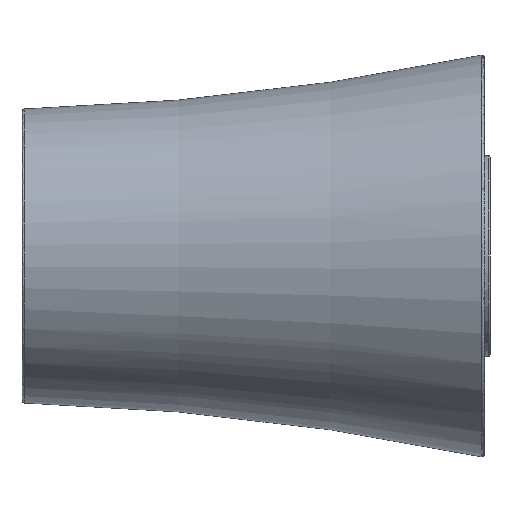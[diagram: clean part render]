
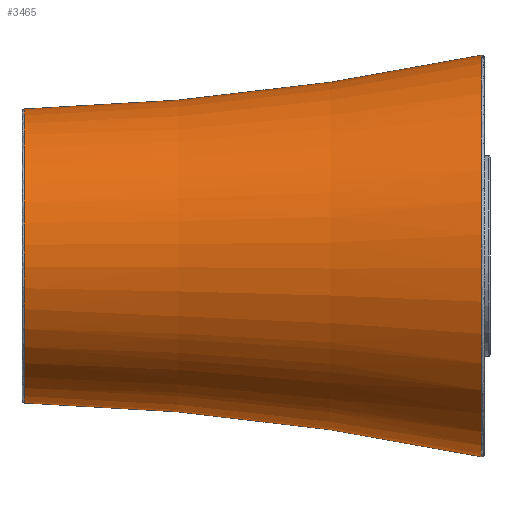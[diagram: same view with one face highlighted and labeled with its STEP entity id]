
A CAD part, left-side view. The second image highlights one B-rep face of the part: STEP entity #3465.
In plain terms, the highlighted toroidal (fillet/blend) face has major radius 1690.73 mm and minor radius 1600 mm.
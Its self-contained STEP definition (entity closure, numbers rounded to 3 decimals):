
#1 = CARTESIAN_POINT ( 'NONE',  ( -136.219, 302.323, -40.358 ) ) ;
#30 = CARTESIAN_POINT ( 'NONE',  ( -181.784, 302.323, 44.889 ) ) ;
#53 = CARTESIAN_POINT ( 'NONE',  ( -102.4, 302.323, 129.663 ) ) ;
#78 = CIRCLE ( 'NONE', #2293, 1600. ) ;
#266 = CARTESIAN_POINT ( 'NONE',  ( -98.611, 18.288, -85.881 ) ) ;
#289 = CARTESIAN_POINT ( 'NONE',  ( -184.46, 18.288, 121.376 ) ) ;
#316 = CARTESIAN_POINT ( 'NONE',  ( -145.745, 18.288, -73.256 ) ) ;
#348 = CARTESIAN_POINT ( 'NONE',  ( -198.742, 18.288, -23.629 ) ) ;
#399 = CARTESIAN_POINT ( 'NONE',  ( -136.219, 302.323, 118.179 ) ) ;
#433 = DIRECTION ( 'NONE',  ( -1., 0., 0. ) ) ;
#515 = CARTESIAN_POINT ( 'NONE',  ( -114.127, 302.323, -49.509 ) ) ;
#575 = EDGE_CURVE ( 'NONE', #1121, #4614, #2673, .T. ) ;
#583 = EDGE_CURVE ( 'NONE', #1121, #2074, #4719, .T. ) ;
#601 = CARTESIAN_POINT ( 'NONE',  ( -90.443, 346.695, -1651.815 ) ) ;
#607 = ORIENTED_EDGE ( 'NONE', *, *, #583, .T. ) ;
#705 = B_SPLINE_CURVE_WITH_KNOTS ( 'NONE', 3,
 ( #1552, #266, #5253, #2305, #2683, #316, #4017, #756, #2387, #3181, #2351, #348, #5148, #1901, #3155, #1498, #3127, #3585, #3929, #4778, #1980, #1112, #3983, #3611, #289, #3507, #1925, #3553, #4310, #5227, #2279, #5197, #1526, #4806 ),
 .UNSPECIFIED., .F., .F.,
 ( 4, 2, 2, 2, 2, 2, 2, 2, 2, 2, 2, 2, 2, 2, 2, 2, 4 ),
 ( 0., 0.031, 0.063, 0.094, 0.125, 0.156, 0.188, 0.219, 0.25, 0.281, 0.313, 0.344, 0.375, 0.406, 0.438, 0.469, 0.5 ),
 .UNSPECIFIED. ) ;
#756 = CARTESIAN_POINT ( 'NONE',  ( -166.565, 18.288, -60.312 ) ) ;
#805 = CARTESIAN_POINT ( 'NONE',  ( -150.804, 302.323, 107.726 ) ) ;
#892 = DIRECTION ( 'NONE',  ( 0., 0., 1. ) ) ;
#916 = CARTESIAN_POINT ( 'NONE',  ( -119.875, 302.323, 125.586 ) ) ;
#1112 = CARTESIAN_POINT ( 'NONE',  ( -202.61, 18.288, 94.212 ) ) ;
#1121 = VERTEX_POINT ( 'NONE', #2341 ) ;
#1152 = ORIENTED_EDGE ( 'NONE', *, *, #4181, .T. ) ;
#1216 = CARTESIAN_POINT ( 'NONE',  ( -159.258, 302.323, 99.271 ) ) ;
#1236 = DIRECTION ( 'NONE',  ( 0., 0., 1. ) ) ;
#1290 = CARTESIAN_POINT ( 'NONE',  ( -146.16, 302.323, -33.715 ) ) ;
#1313 = CARTESIAN_POINT ( 'NONE',  ( -177.119, 302.323, 9.479 ) ) ;
#1475 = AXIS2_PLACEMENT_3D ( 'NONE', #2147, #433, #892 ) ;
#1498 = CARTESIAN_POINT ( 'NONE',  ( -214.431, 18.288, 22.576 ) ) ;
#1526 = CARTESIAN_POINT ( 'NONE',  ( -98.611, 18.288, 163.702 ) ) ;
#1552 = CARTESIAN_POINT ( 'NONE',  ( -90.443, 18.288, -85.881 ) ) ;
#1642 = CARTESIAN_POINT ( 'NONE',  ( -119.875, 302.323, -47.765 ) ) ;
#1668 = CARTESIAN_POINT ( 'NONE',  ( -181.784, 302.323, 32.932 ) ) ;
#1691 = CARTESIAN_POINT ( 'NONE',  ( -172.544, 302.323, -1.567 ) ) ;
#1876 = EDGE_LOOP ( 'NONE', ( #607, #3961, #1152, #4093 ) ) ;
#1901 = CARTESIAN_POINT ( 'NONE',  ( -208.862, 18.288, -1.299 ) ) ;
#1925 = CARTESIAN_POINT ( 'NONE',  ( -166.565, 18.288, 138.133 ) ) ;
#1980 = CARTESIAN_POINT ( 'NONE',  ( -208.862, 18.288, 79.12 ) ) ;
#2066 = CARTESIAN_POINT ( 'NONE',  ( -130.921, 302.323, 121.011 ) ) ;
#2074 = VERTEX_POINT ( 'NONE', #5286 ) ;
#2093 = CARTESIAN_POINT ( 'NONE',  ( -90.443, 302.323, 130.251 ) ) ;
#2111 = CARTESIAN_POINT ( 'NONE',  ( -90.443, 346.695, 38.911 ) ) ;
#2118 = CARTESIAN_POINT ( 'NONE',  ( -96.422, 302.323, -52.43 ) ) ;
#2147 = CARTESIAN_POINT ( 'NONE',  ( -90.443, 346.695, 1729.636 ) ) ;
#2279 = CARTESIAN_POINT ( 'NONE',  ( -122.8, 18.288, 159.711 ) ) ;
#2293 = AXIS2_PLACEMENT_3D ( 'NONE', #601, #5125, #3482 ) ;
#2305 = CARTESIAN_POINT ( 'NONE',  ( -122.8, 18.288, -81.89 ) ) ;
#2341 = CARTESIAN_POINT ( 'NONE',  ( -90.443, 302.323, 130.251 ) ) ;
#2351 = CARTESIAN_POINT ( 'NONE',  ( -189.666, 18.288, -37.211 ) ) ;
#2387 = CARTESIAN_POINT ( 'NONE',  ( -172.909, 18.288, -55.106 ) ) ;
#2426 = FACE_OUTER_BOUND ( 'NONE', #1876, .T. ) ;
#2433 = CARTESIAN_POINT ( 'NONE',  ( -169.712, 302.323, 84.686 ) ) ;
#2513 = CARTESIAN_POINT ( 'NONE',  ( -159.258, 302.323, -21.45 ) ) ;
#2673 = CIRCLE ( 'NONE', #1475, 1600. ) ;
#2683 = CARTESIAN_POINT ( 'NONE',  ( -130.653, 18.288, -79.507 ) ) ;
#2689 = EDGE_CURVE ( 'NONE', #2074, #4563, #78, .T. ) ;
#2846 = CARTESIAN_POINT ( 'NONE',  ( -96.422, 302.323, 130.251 ) ) ;
#2895 = CARTESIAN_POINT ( 'NONE',  ( -114.127, 302.323, 127.33 ) ) ;
#2923 = CARTESIAN_POINT ( 'NONE',  ( -150.804, 302.323, -29.904 ) ) ;
#3127 = CARTESIAN_POINT ( 'NONE',  ( -215.235, 18.288, 30.743 ) ) ;
#3155 = CARTESIAN_POINT ( 'NONE',  ( -211.244, 18.288, 6.554 ) ) ;
#3181 = CARTESIAN_POINT ( 'NONE',  ( -184.46, 18.288, -43.555 ) ) ;
#3289 = CARTESIAN_POINT ( 'NONE',  ( -181.196, 302.323, 26.954 ) ) ;
#3315 = CARTESIAN_POINT ( 'NONE',  ( -172.544, 302.323, 79.388 ) ) ;
#3348 = CARTESIAN_POINT ( 'NONE',  ( -90.443, 18.288, -85.881 ) ) ;
#3465 = ADVANCED_FACE ( 'NONE', ( #2426 ), #3571, .F. ) ;
#3482 = DIRECTION ( 'NONE',  ( 0., 0., -1. ) ) ;
#3507 = CARTESIAN_POINT ( 'NONE',  ( -172.909, 18.288, 132.927 ) ) ;
#3553 = CARTESIAN_POINT ( 'NONE',  ( -152.983, 18.288, 147.209 ) ) ;
#3571 = TOROIDAL_SURFACE ( 'NONE', #4964, 1690.725, 1600. ) ;
#3585 = CARTESIAN_POINT ( 'NONE',  ( -215.235, 18.288, 47.078 ) ) ;
#3611 = CARTESIAN_POINT ( 'NONE',  ( -189.666, 18.288, 115.032 ) ) ;
#3660 = CARTESIAN_POINT ( 'NONE',  ( -163.069, 302.323, 94.628 ) ) ;
#3686 = CARTESIAN_POINT ( 'NONE',  ( -181.196, 302.323, 50.867 ) ) ;
#3709 = CARTESIAN_POINT ( 'NONE',  ( -178.863, 302.323, 62.594 ) ) ;
#3761 = CARTESIAN_POINT ( 'NONE',  ( -169.712, 302.323, -6.865 ) ) ;
#3929 = CARTESIAN_POINT ( 'NONE',  ( -214.431, 18.288, 55.246 ) ) ;
#3961 = ORIENTED_EDGE ( 'NONE', *, *, #2689, .T. ) ;
#3983 = CARTESIAN_POINT ( 'NONE',  ( -198.742, 18.288, 101.45 ) ) ;
#4017 = CARTESIAN_POINT ( 'NONE',  ( -152.983, 18.288, -69.388 ) ) ;
#4060 = CARTESIAN_POINT ( 'NONE',  ( -90.443, 302.323, -52.43 ) ) ;
#4093 = ORIENTED_EDGE ( 'NONE', *, *, #575, .F. ) ;
#4140 = DIRECTION ( 'NONE',  ( 0., 1., 0. ) ) ;
#4147 = CARTESIAN_POINT ( 'NONE',  ( -178.863, 302.323, 15.228 ) ) ;
#4181 = EDGE_CURVE ( 'NONE', #4563, #4614, #705, .T. ) ;
#4310 = CARTESIAN_POINT ( 'NONE',  ( -145.745, 18.288, 151.078 ) ) ;
#4477 = CARTESIAN_POINT ( 'NONE',  ( -130.921, 302.323, -43.19 ) ) ;
#4502 = CARTESIAN_POINT ( 'NONE',  ( -102.4, 302.323, -51.841 ) ) ;
#4563 = VERTEX_POINT ( 'NONE', #3348 ) ;
#4614 = VERTEX_POINT ( 'NONE', #4663 ) ;
#4663 = CARTESIAN_POINT ( 'NONE',  ( -90.443, 18.288, 163.702 ) ) ;
#4719 = B_SPLINE_CURVE_WITH_KNOTS ( 'NONE', 3,
 ( #2093, #2846, #53, #2895, #916, #2066, #399, #4883, #805, #1216, #3660, #2433, #3315, #4962, #3709, #3686, #30, #1668, #3289, #4147, #1313, #1691, #3761, #4933, #2513, #2923, #1290, #1, #4477, #1642, #515, #4502, #2118, #4060 ),
 .UNSPECIFIED., .F., .F.,
 ( 4, 2, 2, 2, 2, 2, 2, 2, 2, 2, 2, 2, 2, 2, 2, 2, 4 ),
 ( 0.5, 0.531, 0.562, 0.594, 0.625, 0.656, 0.688, 0.719, 0.75, 0.781, 0.813, 0.844, 0.875, 0.906, 0.938, 0.969, 1. ),
 .UNSPECIFIED. ) ;
#4778 = CARTESIAN_POINT ( 'NONE',  ( -211.244, 18.288, 71.267 ) ) ;
#4806 = CARTESIAN_POINT ( 'NONE',  ( -90.443, 18.288, 163.702 ) ) ;
#4883 = CARTESIAN_POINT ( 'NONE',  ( -146.16, 302.323, 111.536 ) ) ;
#4933 = CARTESIAN_POINT ( 'NONE',  ( -163.069, 302.323, -16.806 ) ) ;
#4962 = CARTESIAN_POINT ( 'NONE',  ( -177.119, 302.323, 68.342 ) ) ;
#4964 = AXIS2_PLACEMENT_3D ( 'NONE', #2111, #4140, #1236 ) ;
#5125 = DIRECTION ( 'NONE',  ( 1., 0., 0. ) ) ;
#5148 = CARTESIAN_POINT ( 'NONE',  ( -202.61, 18.288, -16.391 ) ) ;
#5197 = CARTESIAN_POINT ( 'NONE',  ( -106.778, 18.288, 162.898 ) ) ;
#5227 = CARTESIAN_POINT ( 'NONE',  ( -130.653, 18.288, 157.329 ) ) ;
#5253 = CARTESIAN_POINT ( 'NONE',  ( -106.778, 18.288, -85.077 ) ) ;
#5286 = CARTESIAN_POINT ( 'NONE',  ( -90.443, 302.323, -52.43 ) ) ;
